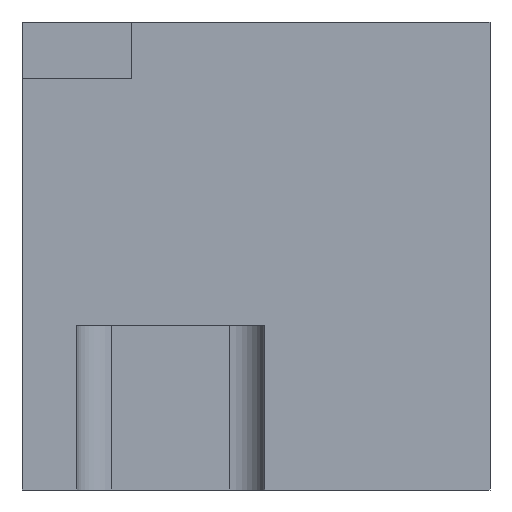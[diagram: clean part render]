
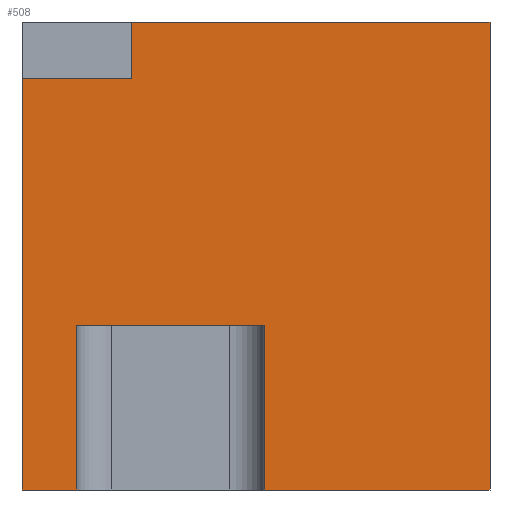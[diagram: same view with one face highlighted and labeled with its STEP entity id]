
A CAD part, left-side view. The second image highlights one B-rep face of the part: STEP entity #508.
In plain terms, the highlighted planar face has unit normal (-1, 0, 0).
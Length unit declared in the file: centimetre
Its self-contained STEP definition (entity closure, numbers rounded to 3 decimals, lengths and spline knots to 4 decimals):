
#14 = ORIENTED_EDGE ( 'NONE', *, *, #616, .T. ) ;
#17 = ORIENTED_EDGE ( 'NONE', *, *, #557, .T. ) ;
#23 = VECTOR ( 'NONE', #339, 100. ) ;
#38 = EDGE_CURVE ( 'NONE', #325, #77, #319, .T. ) ;
#43 = CARTESIAN_POINT ( 'NONE',  ( 0., 1000., 1000. ) ) ;
#50 = VECTOR ( 'NONE', #816, 100. ) ;
#77 = VERTEX_POINT ( 'NONE', #379 ) ;
#78 = CARTESIAN_POINT ( 'NONE',  ( 0., 765.7154, 1000. ) ) ;
#100 = LINE ( 'NONE', #43, #50 ) ;
#102 = VECTOR ( 'NONE', #289, 100. ) ;
#104 = VECTOR ( 'NONE', #773, 100. ) ;
#121 = VERTEX_POINT ( 'NONE', #207 ) ;
#122 = ORIENTED_EDGE ( 'NONE', *, *, #689, .F. ) ;
#123 = PLANE ( 'NONE',  #147 ) ;
#125 = VERTEX_POINT ( 'NONE', #782 ) ;
#129 = VECTOR ( 'NONE', #712, 100. ) ;
#139 = CARTESIAN_POINT ( 'NONE',  ( 0., 0., 1000. ) ) ;
#147 = AXIS2_PLACEMENT_3D ( 'NONE', #454, #765, #260 ) ;
#152 = VERTEX_POINT ( 'NONE', #334 ) ;
#193 = CARTESIAN_POINT ( 'NONE',  ( 0., 1000., 1000. ) ) ;
#206 = CARTESIAN_POINT ( 'NONE',  ( 0., 481.0561, 0. ) ) ;
#207 = CARTESIAN_POINT ( 'NONE',  ( 0., 765.7154, 879.5282 ) ) ;
#220 = CARTESIAN_POINT ( 'NONE',  ( 0., 1000., 879.5282 ) ) ;
#226 = ORIENTED_EDGE ( 'NONE', *, *, #533, .T. ) ;
#257 = DIRECTION ( 'NONE',  ( 0., 0., -1. ) ) ;
#260 = DIRECTION ( 'NONE',  ( 0., 0., -1. ) ) ;
#266 = LINE ( 'NONE', #803, #23 ) ;
#273 = ORIENTED_EDGE ( 'NONE', *, *, #735, .F. ) ;
#278 = VERTEX_POINT ( 'NONE', #220 ) ;
#286 = EDGE_CURVE ( 'NONE', #121, #843, #350, .T. ) ;
#289 = DIRECTION ( 'NONE',  ( 0., -1., 0. ) ) ;
#293 = LINE ( 'NONE', #361, #341 ) ;
#305 = ORIENTED_EDGE ( 'NONE', *, *, #286, .F. ) ;
#313 = LINE ( 'NONE', #193, #596 ) ;
#316 = VECTOR ( 'NONE', #662, 100. ) ;
#317 = FACE_OUTER_BOUND ( 'NONE', #653, .T. ) ;
#319 = LINE ( 'NONE', #362, #104 ) ;
#325 = VERTEX_POINT ( 'NONE', #690 ) ;
#334 = CARTESIAN_POINT ( 'NONE',  ( 0., 0., 0. ) ) ;
#339 = DIRECTION ( 'NONE',  ( 0., 0., -1. ) ) ;
#341 = VECTOR ( 'NONE', #492, 100. ) ;
#344 = LINE ( 'NONE', #798, #727 ) ;
#350 = LINE ( 'NONE', #433, #772 ) ;
#361 = CARTESIAN_POINT ( 'NONE',  ( 0., 1000., 350.4996 ) ) ;
#362 = CARTESIAN_POINT ( 'NONE',  ( 0., 883.4776, 350.4996 ) ) ;
#365 = ORIENTED_EDGE ( 'NONE', *, *, #416, .T. ) ;
#366 = ORIENTED_EDGE ( 'NONE', *, *, #38, .T. ) ;
#379 = CARTESIAN_POINT ( 'NONE',  ( 0., 883.4776, 350.4996 ) ) ;
#412 = LINE ( 'NONE', #565, #102 ) ;
#416 = EDGE_CURVE ( 'NONE', #278, #629, #313, .T. ) ;
#418 = ORIENTED_EDGE ( 'NONE', *, *, #776, .T. ) ;
#433 = CARTESIAN_POINT ( 'NONE',  ( 0., 765.7154, 879.5282 ) ) ;
#454 = CARTESIAN_POINT ( 'NONE',  ( 0., 1000., 1000. ) ) ;
#470 = DIRECTION ( 'NONE',  ( 0., 1., 0. ) ) ;
#481 = LINE ( 'NONE', #139, #316 ) ;
#492 = DIRECTION ( 'NONE',  ( 0., 1., 0. ) ) ;
#508 = ADVANCED_FACE ( 'NONE', ( #317 ), #123, .F. ) ;
#518 = CARTESIAN_POINT ( 'NONE',  ( 0., 1000., 0. ) ) ;
#533 = EDGE_CURVE ( 'NONE', #679, #152, #579, .T. ) ;
#557 = EDGE_CURVE ( 'NONE', #125, #679, #266, .T. ) ;
#565 = CARTESIAN_POINT ( 'NONE',  ( 0., 1000., 0. ) ) ;
#579 = LINE ( 'NONE', #518, #129 ) ;
#582 = ORIENTED_EDGE ( 'NONE', *, *, #771, .F. ) ;
#596 = VECTOR ( 'NONE', #257, 100. ) ;
#616 = EDGE_CURVE ( 'NONE', #121, #278, #344, .T. ) ;
#629 = VERTEX_POINT ( 'NONE', #731 ) ;
#653 = EDGE_LOOP ( 'NONE', ( #273, #17, #226, #122, #582, #305, #14, #365, #418, #366 ) ) ;
#662 = DIRECTION ( 'NONE',  ( 0., 0., -1. ) ) ;
#679 = VERTEX_POINT ( 'NONE', #206 ) ;
#689 = EDGE_CURVE ( 'NONE', #835, #152, #481, .T. ) ;
#690 = CARTESIAN_POINT ( 'NONE',  ( 0., 883.4776, 0. ) ) ;
#712 = DIRECTION ( 'NONE',  ( 0., -1., 0. ) ) ;
#727 = VECTOR ( 'NONE', #470, 100. ) ;
#731 = CARTESIAN_POINT ( 'NONE',  ( 0., 1000., 0. ) ) ;
#735 = EDGE_CURVE ( 'NONE', #125, #77, #293, .T. ) ;
#760 = CARTESIAN_POINT ( 'NONE',  ( 0., 0., 1000. ) ) ;
#761 = DIRECTION ( 'NONE',  ( 0., 0., 1. ) ) ;
#765 = DIRECTION ( 'NONE',  ( 1., 0., 0. ) ) ;
#771 = EDGE_CURVE ( 'NONE', #843, #835, #100, .T. ) ;
#772 = VECTOR ( 'NONE', #761, 100. ) ;
#773 = DIRECTION ( 'NONE',  ( 0., 0., 1. ) ) ;
#776 = EDGE_CURVE ( 'NONE', #629, #325, #412, .T. ) ;
#782 = CARTESIAN_POINT ( 'NONE',  ( 0., 481.0561, 350.4996 ) ) ;
#798 = CARTESIAN_POINT ( 'NONE',  ( 0., 765.7154, 879.5282 ) ) ;
#803 = CARTESIAN_POINT ( 'NONE',  ( 0., 481.0561, 350.4996 ) ) ;
#816 = DIRECTION ( 'NONE',  ( 0., -1., 0. ) ) ;
#835 = VERTEX_POINT ( 'NONE', #760 ) ;
#843 = VERTEX_POINT ( 'NONE', #78 ) ;
